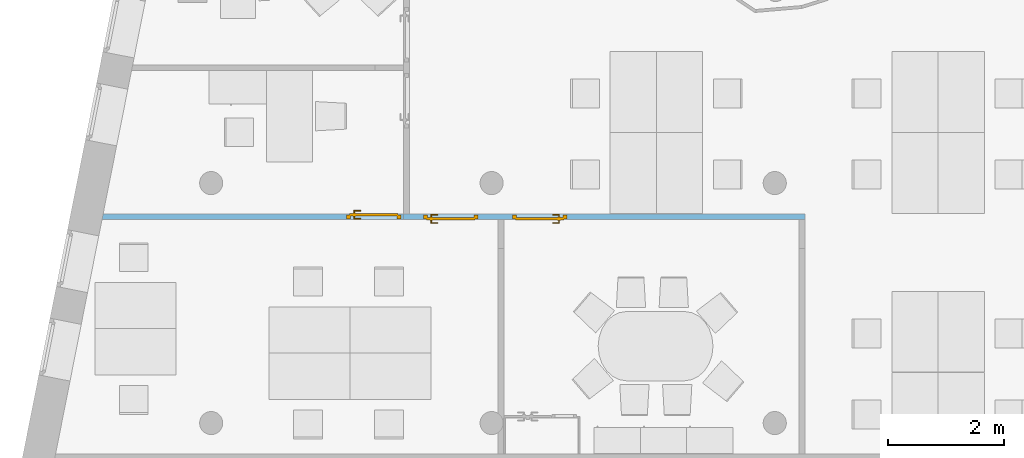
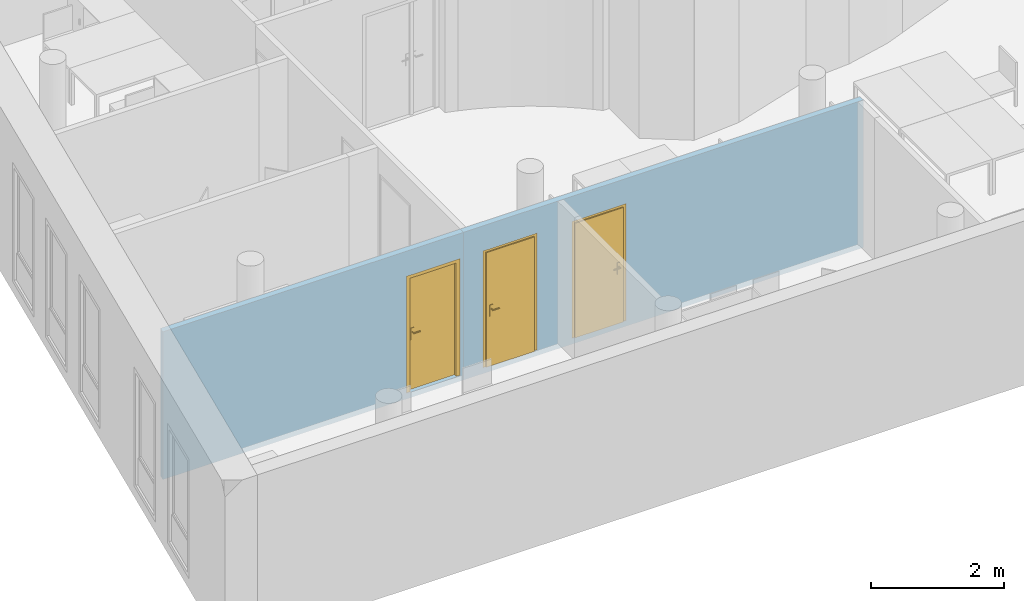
"""IFC4 building model written with IfcOpenShell, lengths in metres."""

from ifc_helpers import new_model, entity, si_unit, converted_unit, derived_unit, frame, frame_2d, origin, origin_with_axes, place, context, subcontext, project, spatial, polyline, rectangle, outline, extrude, faceted_brep, source, transform, mapped, material, layer, layer_set, layer_usage, element, fill, save


model = new_model("IFC4")

# Units and contexts
model_context = context("Model", 3, precision=1e-05, world=origin())
body_context = subcontext(model_context, "Body", "Model", "MODEL_VIEW")
ifc_project = project(units=[si_unit("LENGTHUNIT", "METRE"), si_unit("AREAUNIT", "SQUARE_METRE"), si_unit("VOLUMEUNIT", "CUBIC_METRE"), si_unit("MASSUNIT", "GRAM", prefix="KILO"), converted_unit("PLANEANGLEUNIT", "DEGREE", entity("IfcPlaneAngleMeasure", 0.0174532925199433), si_unit("PLANEANGLEUNIT", "RADIAN"), dimensions=[0, 0, 0, 0, 0, 0, 0]), derived_unit("THERMALTRANSMITTANCEUNIT", [(si_unit("POWERUNIT", "WATT"), 1), (si_unit("THERMODYNAMICTEMPERATUREUNIT", "KELVIN"), -1), (si_unit("LENGTHUNIT", "METRE"), -2)]), derived_unit("VOLUMETRICFLOWRATEUNIT", [(si_unit("LENGTHUNIT", "METRE"), 3), (converted_unit("TIMEUNIT", "hour", entity("IfcTimeMeasure", 3600.0), si_unit("TIMEUNIT", "SECOND"), dimensions=[0, 0, 1, 0, 0, 0, 0]), -1), (si_unit("LENGTHUNIT", "METRE"), -1)])], contexts=[model_context])

# Building, storeys
building_placement = place(None, origin())
building = spatial("IfcBuilding", under=ifc_project, at=building_placement, Name="HABITATGE PLURIFAMILIAR", CompositionType="ELEMENT")
storey_1_placement = place(building_placement, frame((0.0, 0.0, 12.27)))
storey_1 = spatial("IfcBuildingStorey", under=building, at=storey_1_placement, Name="PLANTA TERCERA", CompositionType="ELEMENT", Elevation=12.27)
storey_2_placement = place(storey_1_placement, frame((0.0, 0.0, 9.26)))
storey_2 = spatial("IfcBuildingStorey", under=storey_1, at=storey_2_placement, Name="NOU", CompositionType="PARTIAL")

# Wall, openings, doors
ifc_material_1 = material()
ifc_layer_1 = layer(ifc_material_1, 0.1)
ifc_layer_set_1 = layer_set([ifc_layer_1])
ifc_layer_usage_1 = layer_usage(ifc_layer_set_1, "AXIS2", "POSITIVE", 0.0)
wall_1_placement = place(storey_2_placement, frame((411.253608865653, 17.2662411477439, -9.36), z_axis=(0.0, 0.0, 1.0), x_axis=(-1.0, 0.0, 0.0)))
wall_1 = element("IfcWall", 1, at=wall_1_placement, inside=storey_2, material=ifc_layer_usage_1, Name="Mampara P3", context=body_context, shape_type="SweptSolid", body=[
    extrude(rectangle(XDim=6.93662408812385, YDim=0.1, at=frame_2d((3.46831204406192, 0.05), x_axis=(1.0, 0.0))), origin_with_axes(), (0.0, 0.0, 1.0), 2.71),
])
opening_1_placement = place(wall_1_placement, frame((5.65527130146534, 0.0, 0.1), z_axis=(0.0, 1.0, 0.0), x_axis=(0.0, 0.0, 1.0)))
opening_1 = element("IfcOpeningElement", 2, at=opening_1_placement, cuts=wall_1, Name="Vano porta P3", ObjectType="Opening", context=body_context, shape_type="SweptSolid", body=[
    extrude(outline(polyline([(2.15, 0.94), (2.15, 0.0), (0.0, 0.0), (0.0, 0.94), (2.15, 0.94)])), origin_with_axes(), (0.0, 0.0, 1.0), 0.1),
])
opening_2_placement = place(wall_1_placement, frame((4.11429592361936, 0.0, 0.1), z_axis=(0.0, 1.0, 0.0), x_axis=(0.0, 0.0, 1.0)))
opening_2 = element("IfcOpeningElement", 3, at=opening_2_placement, cuts=wall_1, Name="Vano porta P3", ObjectType="Opening", context=body_context, shape_type="SweptSolid", body=[
    extrude(outline(polyline([(2.15, 0.94), (2.15, 0.0), (0.0, 0.0), (0.0, 0.94), (2.15, 0.94)])), origin_with_axes(), (0.0, 0.0, 1.0), 0.1),
])
shared_shape_1 = source(origin_with_axes(), body_context, "Body", "Brep", [
    faceted_brep([(0.94, 0.07, 2.15), (0.87, 0.07, 2.15), (0.87, 0.07, 0.0), (0.94, 0.07, 0.0), (0.94, 0.0, 0.0), (0.87, 0.0, 0.0), (0.87, 0.0, 2.15), (0.94, 0.0, 2.15)], [[[0, 1, 2, 3]], [[4, 5, 6, 7]], [[3, 4, 7, 0]], [[2, 5, 4, 3]], [[1, 6, 5, 2]], [[0, 7, 6, 1]]], orient=[[False], [False], [False], [False], [False], [False]]),
    faceted_brep([(0.07, 0.07, 2.15), (0.0, 0.07, 2.15), (0.0, 0.07, 0.0), (0.07, 0.07, 0.0), (0.07, 0.0, 0.0), (0.0, 0.0, 0.0), (0.0, 0.0, 2.15), (0.07, 0.0, 2.15)], [[[0, 1, 2, 3]], [[4, 5, 6, 7]], [[3, 4, 7, 0]], [[2, 5, 4, 3]], [[1, 6, 5, 2]], [[0, 7, 6, 1]]], orient=[[False], [False], [False], [False], [False], [False]]),
    faceted_brep([(0.87, 0.07, 2.15), (0.07, 0.07, 2.15), (0.07, 0.07, 2.08), (0.87, 0.07, 2.08), (0.87, 0.0, 2.08), (0.07, 0.0, 2.08), (0.07, 0.0, 2.15), (0.87, 0.0, 2.15)], [[[0, 1, 2, 3]], [[4, 5, 6, 7]], [[3, 4, 7, 0]], [[2, 5, 4, 3]], [[1, 6, 5, 2]], [[0, 7, 6, 1]]], orient=[[False], [False], [False], [False], [False], [False]]),
    faceted_brep([(0.89, 0.09, 2.1), (0.05, 0.09, 2.1), (0.05, 0.09, 0.0), (0.89, 0.09, 0.0), (0.89, 0.05, 0.0), (0.05, 0.05, 0.0), (0.05, 0.05, 2.1), (0.89, 0.05, 2.1)], [[[0, 1, 2, 3]], [[4, 5, 6, 7]], [[3, 4, 7, 0]], [[2, 5, 4, 3]], [[1, 6, 5, 2]], [[0, 7, 6, 1]]], orient=[[False], [False], [False], [False], [False], [False]]),
    faceted_brep([(0.83, 0.05, 1.125), (0.78, 0.05, 1.125), (0.78, 0.05, 0.91), (0.83, 0.05, 0.91), (0.83, 0.04, 0.91), (0.78, 0.04, 0.91), (0.78, 0.04, 1.125), (0.83, 0.04, 1.125)], [[[0, 1, 2, 3]], [[4, 5, 6, 7]], [[3, 4, 7, 0]], [[2, 5, 4, 3]], [[1, 6, 5, 2]], [[0, 7, 6, 1]]], orient=[[False], [False], [False], [False], [False], [False]]),
    faceted_brep([(0.805, 0.04, 1.06), (0.8, 0.04, 1.05866025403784), (0.796339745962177, 0.04, 1.055), (0.795, 0.04, 1.05), (0.796339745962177, 0.04, 1.045), (0.8, 0.04, 1.04133974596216), (0.805, 0.04, 1.04), (0.81, 0.04, 1.04133974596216), (0.813660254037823, 0.04, 1.045), (0.815, 0.04, 1.05), (0.813660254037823, 0.04, 1.055), (0.81, 0.04, 1.05866025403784), (0.81, -0.005, 1.05866025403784), (0.805, 0.0, 1.06), (0.813660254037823, -0.00866025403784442, 1.055), (0.815, -0.01, 1.05), (0.813660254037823, -0.00866025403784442, 1.045), (0.81, -0.005, 1.04133974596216), (0.805, 0.0, 1.04), (0.8, 0.005, 1.04133974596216), (0.796339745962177, 0.00866025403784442, 1.045), (0.795, 0.01, 1.05), (0.796339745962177, 0.00866025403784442, 1.055), (0.8, 0.005, 1.05866025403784), (0.69, 0.0, 1.06), (0.69, -0.005, 1.05866025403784), (0.69, -0.00866025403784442, 1.055), (0.69, -0.01, 1.05), (0.69, -0.00866025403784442, 1.045), (0.69, -0.005, 1.04133974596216), (0.69, 0.0, 1.04), (0.69, 0.005, 1.04133974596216), (0.69, 0.00866025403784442, 1.045), (0.69, 0.01, 1.05), (0.69, 0.00866025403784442, 1.055), (0.69, 0.005, 1.05866025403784)], [[[0, 1, 2, 3, 4, 5, 6, 7, 8, 9, 10, 11]], [[0, 11, 12, 13]], [[11, 10, 14, 12]], [[10, 9, 15, 14]], [[9, 8, 16, 15]], [[8, 7, 17, 16]], [[7, 6, 18, 17]], [[6, 5, 19, 18]], [[5, 4, 20, 19]], [[4, 3, 21, 20]], [[3, 2, 22, 21]], [[2, 1, 23, 22]], [[1, 0, 13, 23]], [[24, 25, 26, 27, 28, 29, 30, 31, 32, 33, 34, 35]], [[13, 12, 25, 24]], [[12, 14, 26, 25]], [[14, 15, 27, 26]], [[15, 16, 28, 27]], [[16, 17, 29, 28]], [[17, 18, 30, 29]], [[18, 19, 31, 30]], [[19, 20, 32, 31]], [[20, 21, 33, 32]], [[21, 22, 34, 33]], [[22, 23, 35, 34]], [[23, 13, 24, 35]]], orient=[[False], [False], [False], [False], [False], [False], [False], [False], [False], [False], [False], [False], [False], [False], [False], [False], [False], [False], [False], [False], [False], [False], [False], [False], [False], [False]]),
    faceted_brep([(0.83, 0.09, 1.125), (0.83, 0.09, 0.91), (0.78, 0.09, 0.91), (0.78, 0.09, 1.125), (0.83, 0.1, 0.91), (0.83, 0.1, 1.125), (0.78, 0.1, 1.125), (0.78, 0.1, 0.91)], [[[0, 1, 2, 3]], [[4, 5, 6, 7]], [[1, 0, 5, 4]], [[2, 1, 4, 7]], [[3, 2, 7, 6]], [[0, 3, 6, 5]]], orient=[[False], [False], [False], [False], [False], [False]]),
    faceted_brep([(0.805, 0.1, 1.06), (0.81, 0.1, 1.05866025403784), (0.813660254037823, 0.1, 1.055), (0.815, 0.1, 1.05), (0.813660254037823, 0.1, 1.045), (0.81, 0.1, 1.04133974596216), (0.805, 0.1, 1.04), (0.8, 0.1, 1.04133974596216), (0.796339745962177, 0.1, 1.045), (0.795, 0.1, 1.05), (0.796339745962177, 0.1, 1.055), (0.8, 0.1, 1.05866025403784), (0.805, 0.14, 1.06), (0.81, 0.145, 1.05866025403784), (0.813660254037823, 0.148660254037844, 1.055), (0.815, 0.15, 1.05), (0.813660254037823, 0.148660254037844, 1.045), (0.81, 0.145, 1.04133974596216), (0.805, 0.14, 1.04), (0.8, 0.135, 1.04133974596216), (0.796339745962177, 0.131339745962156, 1.045), (0.795, 0.13, 1.05), (0.796339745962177, 0.131339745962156, 1.055), (0.8, 0.135, 1.05866025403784), (0.69, 0.14, 1.06), (0.69, 0.135, 1.05866025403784), (0.69, 0.131339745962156, 1.055), (0.69, 0.13, 1.05), (0.69, 0.131339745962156, 1.045), (0.69, 0.135, 1.04133974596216), (0.69, 0.14, 1.04), (0.69, 0.145, 1.04133974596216), (0.69, 0.148660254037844, 1.045), (0.69, 0.15, 1.05), (0.69, 0.148660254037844, 1.055), (0.69, 0.145, 1.05866025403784)], [[[0, 1, 2, 3, 4, 5, 6, 7, 8, 9, 10, 11]], [[0, 12, 13, 1]], [[1, 13, 14, 2]], [[2, 14, 15, 3]], [[3, 15, 16, 4]], [[4, 16, 17, 5]], [[5, 17, 18, 6]], [[6, 18, 19, 7]], [[7, 19, 20, 8]], [[8, 20, 21, 9]], [[9, 21, 22, 10]], [[10, 22, 23, 11]], [[11, 23, 12, 0]], [[24, 25, 26, 27, 28, 29, 30, 31, 32, 33, 34, 35]], [[12, 24, 35, 13]], [[13, 35, 34, 14]], [[14, 34, 33, 15]], [[15, 33, 32, 16]], [[16, 32, 31, 17]], [[17, 31, 30, 18]], [[18, 30, 29, 19]], [[19, 29, 28, 20]], [[20, 28, 27, 21]], [[21, 27, 26, 22]], [[22, 26, 25, 23]], [[23, 25, 24, 12]]], orient=[[False], [False], [False], [False], [False], [False], [False], [False], [False], [False], [False], [False], [False], [False], [False], [False], [False], [False], [False], [False], [False], [False], [False], [False], [False], [False]]),
])
door_1_placement = place(opening_1_placement, frame((0.0, 0.0, 0.015), z_axis=(1.0, 0.0, 0.0), x_axis=(0.0, 1.0, 0.0)))
door_1 = element("IfcDoor", 4, at=door_1_placement, inside=storey_2, Name="Porta P3", OperationType="USERDEFINED", OverallHeight=2.15, OverallWidth=0.94, PredefinedType="DOOR", context=body_context, shape_type="MappedRepresentation", body=[
    mapped(shared_shape_1, transform((0.0, 0.0, 0.0), x_axis=(1.0, 0.0, 0.0), y_axis=(0.0, 1.0, 0.0), z_axis=(0.0, 0.0, 1.0), scale=1.0)),
])
fill(opening_1, door_1)
shared_shape_2 = source(origin_with_axes(), body_context, "Body", "Brep", [
    faceted_brep([(0.0, 0.07, 2.15), (0.0, 0.07, 0.0), (0.07, 0.07, 0.0), (0.07, 0.07, 2.15), (0.0, 0.0, 0.0), (0.0, 0.0, 2.15), (0.07, 0.0, 2.15), (0.07, 0.0, 0.0)], [[[0, 1, 2, 3]], [[4, 5, 6, 7]], [[1, 0, 5, 4]], [[2, 1, 4, 7]], [[3, 2, 7, 6]], [[0, 3, 6, 5]]], orient=[[False], [False], [False], [False], [False], [False]]),
    faceted_brep([(0.87, 0.07, 2.15), (0.87, 0.07, 0.0), (0.94, 0.07, 0.0), (0.94, 0.07, 2.15), (0.87, 0.0, 0.0), (0.87, 0.0, 2.15), (0.94, 0.0, 2.15), (0.94, 0.0, 0.0)], [[[0, 1, 2, 3]], [[4, 5, 6, 7]], [[1, 0, 5, 4]], [[2, 1, 4, 7]], [[3, 2, 7, 6]], [[0, 3, 6, 5]]], orient=[[False], [False], [False], [False], [False], [False]]),
    faceted_brep([(0.07, 0.07, 2.15), (0.07, 0.07, 2.08), (0.87, 0.07, 2.08), (0.87, 0.07, 2.15), (0.07, 0.0, 2.08), (0.07, 0.0, 2.15), (0.87, 0.0, 2.15), (0.87, 0.0, 2.08)], [[[0, 1, 2, 3]], [[4, 5, 6, 7]], [[1, 0, 5, 4]], [[2, 1, 4, 7]], [[3, 2, 7, 6]], [[0, 3, 6, 5]]], orient=[[False], [False], [False], [False], [False], [False]]),
    faceted_brep([(0.05, 0.09, 2.1), (0.05, 0.09, 0.0), (0.89, 0.09, 0.0), (0.89, 0.09, 2.1), (0.05, 0.05, 0.0), (0.05, 0.05, 2.1), (0.89, 0.05, 2.1), (0.89, 0.05, 0.0)], [[[0, 1, 2, 3]], [[4, 5, 6, 7]], [[1, 0, 5, 4]], [[2, 1, 4, 7]], [[3, 2, 7, 6]], [[0, 3, 6, 5]]], orient=[[False], [False], [False], [False], [False], [False]]),
    faceted_brep([(0.11, 0.05, 1.125), (0.11, 0.05, 0.91), (0.16, 0.05, 0.91), (0.16, 0.05, 1.125), (0.11, 0.04, 0.91), (0.11, 0.04, 1.125), (0.16, 0.04, 1.125), (0.16, 0.04, 0.91)], [[[0, 1, 2, 3]], [[4, 5, 6, 7]], [[1, 0, 5, 4]], [[2, 1, 4, 7]], [[3, 2, 7, 6]], [[0, 3, 6, 5]]], orient=[[False], [False], [False], [False], [False], [False]]),
    faceted_brep([(0.135, 0.04, 1.06), (0.13, 0.04, 1.05866025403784), (0.126339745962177, 0.04, 1.055), (0.125, 0.04, 1.05), (0.126339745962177, 0.04, 1.045), (0.13, 0.04, 1.04133974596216), (0.135, 0.04, 1.04), (0.14, 0.04, 1.04133974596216), (0.143660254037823, 0.04, 1.045), (0.145, 0.04, 1.05), (0.143660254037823, 0.04, 1.055), (0.14, 0.04, 1.05866025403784), (0.135, 0.0, 1.06), (0.13, -0.005, 1.05866025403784), (0.126339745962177, -0.00866025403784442, 1.055), (0.125, -0.01, 1.05), (0.126339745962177, -0.00866025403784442, 1.045), (0.13, -0.005, 1.04133974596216), (0.135, 0.0, 1.04), (0.14, 0.005, 1.04133974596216), (0.143660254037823, 0.00866025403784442, 1.045), (0.145, 0.01, 1.05), (0.143660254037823, 0.00866025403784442, 1.055), (0.14, 0.005, 1.05866025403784), (0.25, 0.0, 1.06), (0.25, 0.005, 1.05866025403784), (0.25, 0.00866025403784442, 1.055), (0.25, 0.01, 1.05), (0.25, 0.00866025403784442, 1.045), (0.25, 0.005, 1.04133974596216), (0.25, 0.0, 1.04), (0.25, -0.005, 1.04133974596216), (0.25, -0.00866025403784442, 1.045), (0.25, -0.01, 1.05), (0.25, -0.00866025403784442, 1.055), (0.25, -0.005, 1.05866025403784)], [[[0, 1, 2, 3, 4, 5, 6, 7, 8, 9, 10, 11]], [[0, 12, 13, 1]], [[1, 13, 14, 2]], [[2, 14, 15, 3]], [[3, 15, 16, 4]], [[4, 16, 17, 5]], [[5, 17, 18, 6]], [[6, 18, 19, 7]], [[7, 19, 20, 8]], [[8, 20, 21, 9]], [[9, 21, 22, 10]], [[10, 22, 23, 11]], [[11, 23, 12, 0]], [[24, 25, 26, 27, 28, 29, 30, 31, 32, 33, 34, 35]], [[12, 24, 35, 13]], [[13, 35, 34, 14]], [[14, 34, 33, 15]], [[15, 33, 32, 16]], [[16, 32, 31, 17]], [[17, 31, 30, 18]], [[18, 30, 29, 19]], [[19, 29, 28, 20]], [[20, 28, 27, 21]], [[21, 27, 26, 22]], [[22, 26, 25, 23]], [[23, 25, 24, 12]]], orient=[[False], [False], [False], [False], [False], [False], [False], [False], [False], [False], [False], [False], [False], [False], [False], [False], [False], [False], [False], [False], [False], [False], [False], [False], [False], [False]]),
    faceted_brep([(0.11, 0.09, 1.125), (0.16, 0.09, 1.125), (0.16, 0.09, 0.91), (0.11, 0.09, 0.91), (0.11, 0.1, 0.91), (0.16, 0.1, 0.91), (0.16, 0.1, 1.125), (0.11, 0.1, 1.125)], [[[0, 1, 2, 3]], [[4, 5, 6, 7]], [[3, 4, 7, 0]], [[2, 5, 4, 3]], [[1, 6, 5, 2]], [[0, 7, 6, 1]]], orient=[[False], [False], [False], [False], [False], [False]]),
    faceted_brep([(0.135, 0.1, 1.06), (0.14, 0.1, 1.05866025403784), (0.143660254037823, 0.1, 1.055), (0.145, 0.1, 1.05), (0.143660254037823, 0.1, 1.045), (0.14, 0.1, 1.04133974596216), (0.135, 0.1, 1.04), (0.13, 0.1, 1.04133974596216), (0.126339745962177, 0.1, 1.045), (0.125, 0.1, 1.05), (0.126339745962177, 0.1, 1.055), (0.13, 0.1, 1.05866025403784), (0.13, 0.145, 1.05866025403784), (0.135, 0.14, 1.06), (0.126339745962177, 0.148660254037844, 1.055), (0.125, 0.15, 1.05), (0.126339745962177, 0.148660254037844, 1.045), (0.13, 0.145, 1.04133974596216), (0.135, 0.14, 1.04), (0.14, 0.135, 1.04133974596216), (0.143660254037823, 0.131339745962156, 1.045), (0.145, 0.13, 1.05), (0.143660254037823, 0.131339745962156, 1.055), (0.14, 0.135, 1.05866025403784), (0.25, 0.14, 1.06), (0.25, 0.145, 1.05866025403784), (0.25, 0.148660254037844, 1.055), (0.25, 0.15, 1.05), (0.25, 0.148660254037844, 1.045), (0.25, 0.145, 1.04133974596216), (0.25, 0.14, 1.04), (0.25, 0.135, 1.04133974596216), (0.25, 0.131339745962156, 1.045), (0.25, 0.13, 1.05), (0.25, 0.131339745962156, 1.055), (0.25, 0.135, 1.05866025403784)], [[[0, 1, 2, 3, 4, 5, 6, 7, 8, 9, 10, 11]], [[0, 11, 12, 13]], [[11, 10, 14, 12]], [[10, 9, 15, 14]], [[9, 8, 16, 15]], [[8, 7, 17, 16]], [[7, 6, 18, 17]], [[6, 5, 19, 18]], [[5, 4, 20, 19]], [[4, 3, 21, 20]], [[3, 2, 22, 21]], [[2, 1, 23, 22]], [[1, 0, 13, 23]], [[24, 25, 26, 27, 28, 29, 30, 31, 32, 33, 34, 35]], [[13, 12, 25, 24]], [[12, 14, 26, 25]], [[14, 15, 27, 26]], [[15, 16, 28, 27]], [[16, 17, 29, 28]], [[17, 18, 30, 29]], [[18, 19, 31, 30]], [[19, 20, 32, 31]], [[20, 21, 33, 32]], [[21, 22, 34, 33]], [[22, 23, 35, 34]], [[23, 13, 24, 35]]], orient=[[False], [False], [False], [False], [False], [False], [False], [False], [False], [False], [False], [False], [False], [False], [False], [False], [False], [False], [False], [False], [False], [False], [False], [False], [False], [False]]),
])
door_2_placement = place(opening_2_placement, frame((0.0, 0.0, 0.015), z_axis=(1.0, 0.0, 0.0), x_axis=(0.0, 1.0, 0.0)))
door_2 = element("IfcDoor", 5, at=door_2_placement, inside=storey_2, Name="Porta P3", OperationType="USERDEFINED", OverallHeight=2.15, OverallWidth=0.94, PredefinedType="DOOR", context=body_context, shape_type="MappedRepresentation", body=[
    mapped(shared_shape_2, transform((0.0, 0.0, 0.0), x_axis=(1.0, 0.0, 0.0), y_axis=(0.0, 1.0, 0.0), z_axis=(0.0, 0.0, 1.0), scale=1.0)),
])
fill(opening_2, door_2)

# Wall, opening, door
ifc_material_2 = material()
ifc_layer_2 = layer(ifc_material_2, 0.1)
ifc_layer_set_2 = layer_set([ifc_layer_2])
ifc_layer_usage_2 = layer_usage(ifc_layer_set_2, "AXIS2", "POSITIVE", 0.0)
wall_2_placement = place(storey_2_placement, frame((399.098756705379, 17.1662411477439, -9.36)))
wall_2 = element("IfcWall", 6, at=wall_2_placement, inside=storey_2, material=ifc_layer_usage_2, Name="Evans P3", context=body_context, shape_type="SweptSolid", body=[
    extrude(outline(polyline([(0.0, 0.0), (5.21822807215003, 0.0), (5.21822807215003, 0.1), (0.019812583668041, 0.1), (0.0, 0.0)])), origin_with_axes(), (0.0, 0.0, 1.0), 2.71),
])
opening_3_placement = place(wall_2_placement, frame((5.16822807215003, 0.1, 0.1), z_axis=(0.0, -1.0, 0.0), x_axis=(0.0, 0.0, 1.0)))
opening_3 = element("IfcOpeningElement", 7, at=opening_3_placement, cuts=wall_2, Name="Vano porta P3", ObjectType="Opening", context=body_context, shape_type="SweptSolid", body=[
    extrude(outline(polyline([(2.15, 0.94), (2.15, 0.0), (0.0, 0.0), (0.0, 0.94), (2.15, 0.94)])), origin_with_axes(), (0.0, 0.0, 1.0), 0.1),
])
shared_shape_3 = source(origin_with_axes(), body_context, "Body", "Brep", [
    faceted_brep([(0.0, 0.07, 2.15), (0.0, 0.07, 0.0), (0.07, 0.07, 0.0), (0.07, 0.07, 2.15), (0.0, 0.0, 0.0), (0.0, 0.0, 2.15), (0.07, 0.0, 2.15), (0.07, 0.0, 0.0)], [[[0, 1, 2, 3]], [[4, 5, 6, 7]], [[1, 0, 5, 4]], [[2, 1, 4, 7]], [[3, 2, 7, 6]], [[0, 3, 6, 5]]], orient=[[False], [False], [False], [False], [False], [False]]),
    faceted_brep([(0.87, 0.07, 2.15), (0.87, 0.07, 0.0), (0.94, 0.07, 0.0), (0.94, 0.07, 2.15), (0.87, 0.0, 0.0), (0.87, 0.0, 2.15), (0.94, 0.0, 2.15), (0.94, 0.0, 0.0)], [[[0, 1, 2, 3]], [[4, 5, 6, 7]], [[1, 0, 5, 4]], [[2, 1, 4, 7]], [[3, 2, 7, 6]], [[0, 3, 6, 5]]], orient=[[False], [False], [False], [False], [False], [False]]),
    faceted_brep([(0.07, 0.07, 2.15), (0.07, 0.07, 2.08), (0.87, 0.07, 2.08), (0.87, 0.07, 2.15), (0.07, 0.0, 2.08), (0.07, 0.0, 2.15), (0.87, 0.0, 2.15), (0.87, 0.0, 2.08)], [[[0, 1, 2, 3]], [[4, 5, 6, 7]], [[1, 0, 5, 4]], [[2, 1, 4, 7]], [[3, 2, 7, 6]], [[0, 3, 6, 5]]], orient=[[False], [False], [False], [False], [False], [False]]),
    faceted_brep([(0.05, 0.09, 2.1), (0.05, 0.09, 0.0), (0.89, 0.09, 0.0), (0.89, 0.09, 2.1), (0.05, 0.05, 0.0), (0.05, 0.05, 2.1), (0.89, 0.05, 2.1), (0.89, 0.05, 0.0)], [[[0, 1, 2, 3]], [[4, 5, 6, 7]], [[1, 0, 5, 4]], [[2, 1, 4, 7]], [[3, 2, 7, 6]], [[0, 3, 6, 5]]], orient=[[False], [False], [False], [False], [False], [False]]),
    faceted_brep([(0.11, 0.05, 1.125), (0.11, 0.05, 0.91), (0.16, 0.05, 0.91), (0.16, 0.05, 1.125), (0.11, 0.04, 0.91), (0.11, 0.04, 1.125), (0.16, 0.04, 1.125), (0.16, 0.04, 0.91)], [[[0, 1, 2, 3]], [[4, 5, 6, 7]], [[1, 0, 5, 4]], [[2, 1, 4, 7]], [[3, 2, 7, 6]], [[0, 3, 6, 5]]], orient=[[False], [False], [False], [False], [False], [False]]),
    faceted_brep([(0.135, 0.04, 1.06), (0.13, 0.04, 1.05866025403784), (0.126339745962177, 0.04, 1.055), (0.125, 0.04, 1.05), (0.126339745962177, 0.04, 1.045), (0.13, 0.04, 1.04133974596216), (0.135, 0.04, 1.04), (0.14, 0.04, 1.04133974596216), (0.143660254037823, 0.04, 1.045), (0.145, 0.04, 1.05), (0.143660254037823, 0.04, 1.055), (0.14, 0.04, 1.05866025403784), (0.135, 0.0, 1.06), (0.13, -0.005, 1.05866025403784), (0.126339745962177, -0.00866025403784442, 1.055), (0.125, -0.01, 1.05), (0.126339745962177, -0.00866025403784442, 1.045), (0.13, -0.005, 1.04133974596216), (0.135, 0.0, 1.04), (0.14, 0.005, 1.04133974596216), (0.143660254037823, 0.00866025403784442, 1.045), (0.145, 0.01, 1.05), (0.143660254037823, 0.00866025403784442, 1.055), (0.14, 0.005, 1.05866025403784), (0.25, 0.0, 1.06), (0.25, 0.005, 1.05866025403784), (0.25, 0.00866025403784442, 1.055), (0.25, 0.01, 1.05), (0.25, 0.00866025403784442, 1.045), (0.25, 0.005, 1.04133974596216), (0.25, 0.0, 1.04), (0.25, -0.005, 1.04133974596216), (0.25, -0.00866025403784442, 1.045), (0.25, -0.01, 1.05), (0.25, -0.00866025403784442, 1.055), (0.25, -0.005, 1.05866025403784)], [[[0, 1, 2, 3, 4, 5, 6, 7, 8, 9, 10, 11]], [[0, 12, 13, 1]], [[1, 13, 14, 2]], [[2, 14, 15, 3]], [[3, 15, 16, 4]], [[4, 16, 17, 5]], [[5, 17, 18, 6]], [[6, 18, 19, 7]], [[7, 19, 20, 8]], [[8, 20, 21, 9]], [[9, 21, 22, 10]], [[10, 22, 23, 11]], [[11, 23, 12, 0]], [[24, 25, 26, 27, 28, 29, 30, 31, 32, 33, 34, 35]], [[12, 24, 35, 13]], [[13, 35, 34, 14]], [[14, 34, 33, 15]], [[15, 33, 32, 16]], [[16, 32, 31, 17]], [[17, 31, 30, 18]], [[18, 30, 29, 19]], [[19, 29, 28, 20]], [[20, 28, 27, 21]], [[21, 27, 26, 22]], [[22, 26, 25, 23]], [[23, 25, 24, 12]]], orient=[[False], [False], [False], [False], [False], [False], [False], [False], [False], [False], [False], [False], [False], [False], [False], [False], [False], [False], [False], [False], [False], [False], [False], [False], [False], [False]]),
    faceted_brep([(0.11, 0.09, 1.125), (0.16, 0.09, 1.125), (0.16, 0.09, 0.91), (0.11, 0.09, 0.91), (0.11, 0.1, 0.91), (0.16, 0.1, 0.91), (0.16, 0.1, 1.125), (0.11, 0.1, 1.125)], [[[0, 1, 2, 3]], [[4, 5, 6, 7]], [[3, 4, 7, 0]], [[2, 5, 4, 3]], [[1, 6, 5, 2]], [[0, 7, 6, 1]]], orient=[[False], [False], [False], [False], [False], [False]]),
    faceted_brep([(0.135, 0.1, 1.06), (0.14, 0.1, 1.05866025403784), (0.143660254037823, 0.1, 1.055), (0.145, 0.1, 1.05), (0.143660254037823, 0.1, 1.045), (0.14, 0.1, 1.04133974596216), (0.135, 0.1, 1.04), (0.13, 0.1, 1.04133974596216), (0.126339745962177, 0.1, 1.045), (0.125, 0.1, 1.05), (0.126339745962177, 0.1, 1.055), (0.13, 0.1, 1.05866025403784), (0.13, 0.145, 1.05866025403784), (0.135, 0.14, 1.06), (0.126339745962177, 0.148660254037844, 1.055), (0.125, 0.15, 1.05), (0.126339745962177, 0.148660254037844, 1.045), (0.13, 0.145, 1.04133974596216), (0.135, 0.14, 1.04), (0.14, 0.135, 1.04133974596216), (0.143660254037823, 0.131339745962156, 1.045), (0.145, 0.13, 1.05), (0.143660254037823, 0.131339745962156, 1.055), (0.14, 0.135, 1.05866025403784), (0.25, 0.14, 1.06), (0.25, 0.145, 1.05866025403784), (0.25, 0.148660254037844, 1.055), (0.25, 0.15, 1.05), (0.25, 0.148660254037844, 1.045), (0.25, 0.145, 1.04133974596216), (0.25, 0.14, 1.04), (0.25, 0.135, 1.04133974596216), (0.25, 0.131339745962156, 1.045), (0.25, 0.13, 1.05), (0.25, 0.131339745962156, 1.055), (0.25, 0.135, 1.05866025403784)], [[[0, 1, 2, 3, 4, 5, 6, 7, 8, 9, 10, 11]], [[0, 11, 12, 13]], [[11, 10, 14, 12]], [[10, 9, 15, 14]], [[9, 8, 16, 15]], [[8, 7, 17, 16]], [[7, 6, 18, 17]], [[6, 5, 19, 18]], [[5, 4, 20, 19]], [[4, 3, 21, 20]], [[3, 2, 22, 21]], [[2, 1, 23, 22]], [[1, 0, 13, 23]], [[24, 25, 26, 27, 28, 29, 30, 31, 32, 33, 34, 35]], [[13, 12, 25, 24]], [[12, 14, 26, 25]], [[14, 15, 27, 26]], [[15, 16, 28, 27]], [[16, 17, 29, 28]], [[17, 18, 30, 29]], [[18, 19, 31, 30]], [[19, 20, 32, 31]], [[20, 21, 33, 32]], [[21, 22, 34, 33]], [[22, 23, 35, 34]], [[23, 13, 24, 35]]], orient=[[False], [False], [False], [False], [False], [False], [False], [False], [False], [False], [False], [False], [False], [False], [False], [False], [False], [False], [False], [False], [False], [False], [False], [False], [False], [False]]),
])
door_3_placement = place(opening_3_placement, frame((0.0, 0.94, 0.085), z_axis=(1.0, 0.0, 0.0), x_axis=(0.0, -1.0, 0.0)))
door_3 = element("IfcDoor", 8, at=door_3_placement, inside=storey_2, Name="Porta P3", OperationType="USERDEFINED", OverallHeight=2.15, OverallWidth=0.94, PredefinedType="DOOR", context=body_context, shape_type="MappedRepresentation", body=[
    mapped(shared_shape_3, transform((0.0, 0.0, 0.0), x_axis=(1.0, 0.0, 0.0), y_axis=(0.0, 1.0, 0.0), z_axis=(0.0, 0.0, 1.0), scale=1.0)),
])
fill(opening_3, door_3)

save(model, "model.ifc")
